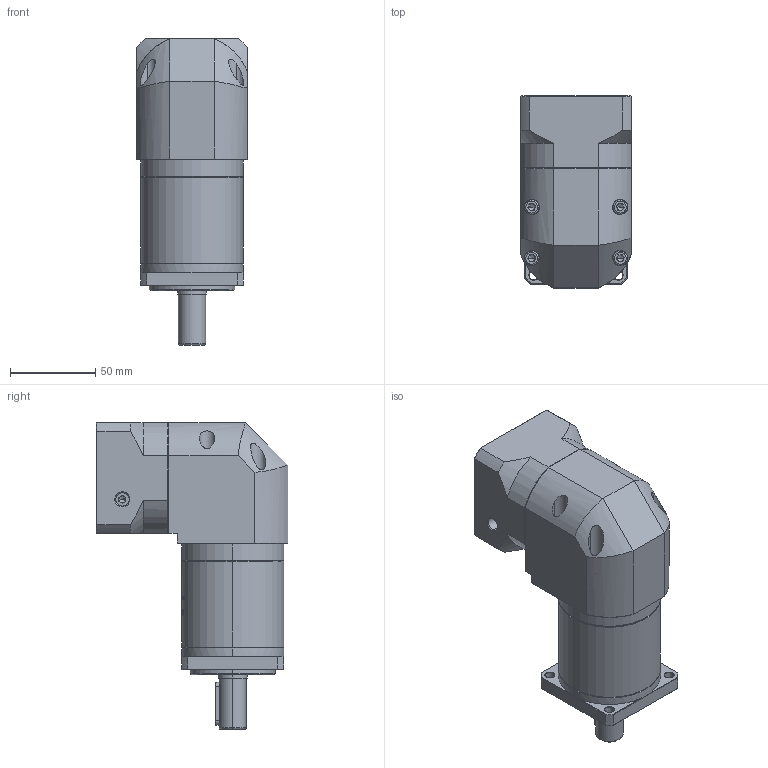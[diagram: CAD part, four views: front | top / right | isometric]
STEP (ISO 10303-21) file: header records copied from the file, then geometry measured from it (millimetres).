
FILE_DESCRIPTION (( 'STEP AP214' ), '1' );
FILE_NAME ('ZFR060-D16-L2-P2-11-60-75-M5.step', '2023-08-17T03:34:43', ( '' ), ( '' ), 'SwSTEP 2.0', 'SolidWorks 2016', '' );
FILE_SCHEMA (( 'AUTOMOTIVE_DESIGN' ));
Length unit declared in the file: millimetre
Products named in the file (1): ZFR060-D16-L2-P2-11-60-75-M5
Bounding box: 65 x 112.7 x 180 mm (x, y, z)
Volume: 603024.3 mm3; surface area: 83351.4 mm2
Topology: 5 solids, 6 shells, 1922 faces, 5125 edges, 3300 vertices
Faces by surface type: plane 847, cylinder 407, bspline 366, cone 290, torus 12
Entity records: 106790 total; most frequent: CARTESIAN_POINT 42036, ORIENTED_EDGE 10206, DIRECTION 7580, EDGE_CURVE 5103, VERTEX_POINT 3300, VECTOR 2614, LINE 2614, AXIS2_PLACEMENT_3D 2483
